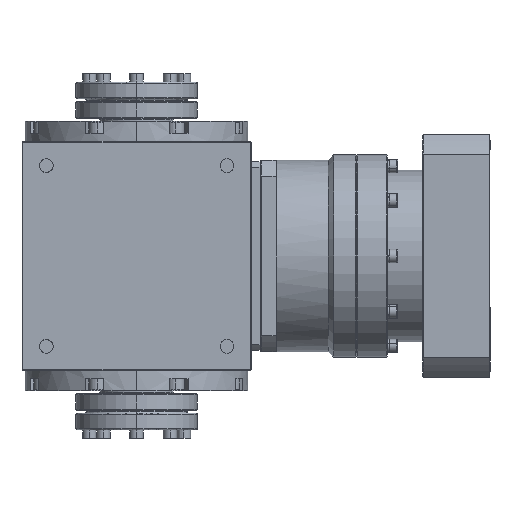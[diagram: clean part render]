
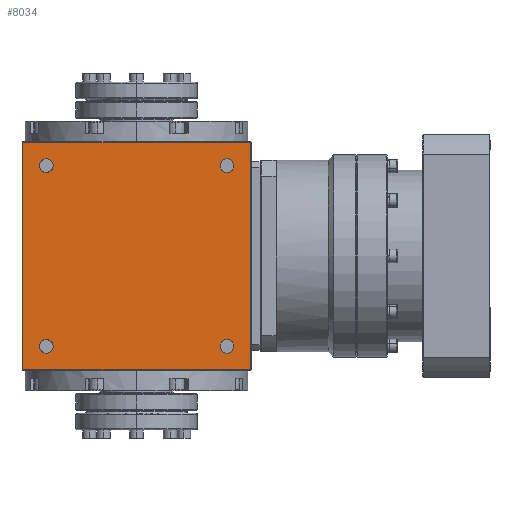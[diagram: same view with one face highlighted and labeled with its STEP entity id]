
A CAD part, left-side view. The second image highlights one B-rep face of the part: STEP entity #8034.
In plain terms, the highlighted planar face has unit normal (-1, 0, 0).
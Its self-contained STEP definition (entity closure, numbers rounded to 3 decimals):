
#691 = DIRECTION ( 'NONE',  ( 1., 0., 0. ) ) ;
#833 = EDGE_LOOP ( 'NONE', ( #30398, #29703 ) ) ;
#1443 = FACE_BOUND ( 'NONE', #29589, .T. ) ;
#1668 = CARTESIAN_POINT ( 'NONE',  ( -85., 85., -85. ) ) ;
#1982 = AXIS2_PLACEMENT_3D ( 'NONE', #19839, #36891, #41239 ) ;
#3492 = DIRECTION ( 'NONE',  ( 1., 0., 0. ) ) ;
#3973 = EDGE_CURVE ( 'NONE', #21170, #16517, #11894, .T. ) ;
#3990 = DIRECTION ( 'NONE',  ( 1., 0., 0. ) ) ;
#4277 = CARTESIAN_POINT ( 'NONE',  ( -85., 67., 72.1 ) ) ;
#4348 = CARTESIAN_POINT ( 'NONE',  ( -85., -84.5, -85. ) ) ;
#4446 = EDGE_CURVE ( 'NONE', #19906, #38791, #21796, .T. ) ;
#4673 = DIRECTION ( 'NONE',  ( -1., 0., 0. ) ) ;
#4786 = CIRCLE ( 'NONE', #11361, 5.1 ) ;
#5134 = CARTESIAN_POINT ( 'NONE',  ( -85., -84.5, -84.5 ) ) ;
#6097 = VERTEX_POINT ( 'NONE', #20550 ) ;
#6541 = LINE ( 'NONE', #13209, #40494 ) ;
#7514 = ORIENTED_EDGE ( 'NONE', *, *, #4446, .T. ) ;
#8034 = ADVANCED_FACE ( 'NONE', ( #35988, #1443, #39896, #40112, #8573 ), #28587, .T. ) ;
#8208 = CARTESIAN_POINT ( 'NONE',  ( -85., -67., -61.9 ) ) ;
#8573 = FACE_BOUND ( 'NONE', #833, .T. ) ;
#8935 = DIRECTION ( 'NONE',  ( 0., 0., 1. ) ) ;
#9701 = VERTEX_POINT ( 'NONE', #31035 ) ;
#10278 = CARTESIAN_POINT ( 'NONE',  ( -85., 84.5, 84.5 ) ) ;
#11361 = AXIS2_PLACEMENT_3D ( 'NONE', #23484, #41204, #30822 ) ;
#11548 = DIRECTION ( 'NONE',  ( 0., -1., 0. ) ) ;
#11672 = CARTESIAN_POINT ( 'NONE',  ( -85., -67., -72.1 ) ) ;
#11894 = CIRCLE ( 'NONE', #17038, 5.1 ) ;
#12094 = EDGE_CURVE ( 'NONE', #38791, #19906, #14720, .T. ) ;
#12589 = ORIENTED_EDGE ( 'NONE', *, *, #22417, .T. ) ;
#12701 = CARTESIAN_POINT ( 'NONE',  ( -85., -67., 61.9 ) ) ;
#12977 = AXIS2_PLACEMENT_3D ( 'NONE', #14285, #3492, #30873 ) ;
#13209 = CARTESIAN_POINT ( 'NONE',  ( -85., 84.5, -85. ) ) ;
#13467 = VERTEX_POINT ( 'NONE', #5134 ) ;
#13602 = ORIENTED_EDGE ( 'NONE', *, *, #3973, .T. ) ;
#13870 = DIRECTION ( 'NONE',  ( 0., 0., 1. ) ) ;
#13954 = CARTESIAN_POINT ( 'NONE',  ( -85., 67., -67. ) ) ;
#14147 = VERTEX_POINT ( 'NONE', #4277 ) ;
#14285 = CARTESIAN_POINT ( 'NONE',  ( -85., -67., -67. ) ) ;
#14307 = EDGE_CURVE ( 'NONE', #21111, #17258, #6541, .T. ) ;
#14456 = CIRCLE ( 'NONE', #1982, 5.1 ) ;
#14693 = LINE ( 'NONE', #4348, #40950 ) ;
#14720 = CIRCLE ( 'NONE', #20619, 5.1 ) ;
#15371 = CARTESIAN_POINT ( 'NONE',  ( -85., 85., -84.5 ) ) ;
#16067 = CARTESIAN_POINT ( 'NONE',  ( -85., 67., 67. ) ) ;
#16368 = VERTEX_POINT ( 'NONE', #12701 ) ;
#16517 = VERTEX_POINT ( 'NONE', #45370 ) ;
#17038 = AXIS2_PLACEMENT_3D ( 'NONE', #13954, #34016, #20650 ) ;
#17258 = VERTEX_POINT ( 'NONE', #19516 ) ;
#17656 = DIRECTION ( 'NONE',  ( 1., 0., 0. ) ) ;
#18194 = EDGE_LOOP ( 'NONE', ( #13602, #40263 ) ) ;
#18473 = EDGE_CURVE ( 'NONE', #29078, #14147, #33274, .T. ) ;
#18794 = CARTESIAN_POINT ( 'NONE',  ( -85., 67., 61.9 ) ) ;
#19085 = EDGE_LOOP ( 'NONE', ( #22613, #7514 ) ) ;
#19516 = CARTESIAN_POINT ( 'NONE',  ( -85., 84.5, -84.5 ) ) ;
#19673 = DIRECTION ( 'NONE',  ( 0., 0., -1. ) ) ;
#19839 = CARTESIAN_POINT ( 'NONE',  ( -85., 67., -67. ) ) ;
#19906 = VERTEX_POINT ( 'NONE', #11672 ) ;
#20327 = CARTESIAN_POINT ( 'NONE',  ( -85., -67., -67. ) ) ;
#20404 = CARTESIAN_POINT ( 'NONE',  ( -85., 67., -61.9 ) ) ;
#20550 = CARTESIAN_POINT ( 'NONE',  ( -85., -67., 72.1 ) ) ;
#20619 = AXIS2_PLACEMENT_3D ( 'NONE', #20327, #691, #13870 ) ;
#20650 = DIRECTION ( 'NONE',  ( 0., 0., 1. ) ) ;
#21111 = VERTEX_POINT ( 'NONE', #10278 ) ;
#21170 = VERTEX_POINT ( 'NONE', #20404 ) ;
#21796 = CIRCLE ( 'NONE', #12977, 5.1 ) ;
#21990 = ORIENTED_EDGE ( 'NONE', *, *, #14307, .T. ) ;
#22417 = EDGE_CURVE ( 'NONE', #6097, #16368, #4786, .T. ) ;
#22613 = ORIENTED_EDGE ( 'NONE', *, *, #12094, .T. ) ;
#23273 = CIRCLE ( 'NONE', #32841, 5.1 ) ;
#23484 = CARTESIAN_POINT ( 'NONE',  ( -85., -67., 67. ) ) ;
#23758 = EDGE_CURVE ( 'NONE', #14147, #29078, #32795, .T. ) ;
#24719 = EDGE_CURVE ( 'NONE', #13467, #9701, #14693, .T. ) ;
#28372 = AXIS2_PLACEMENT_3D ( 'NONE', #31832, #3990, #32058 ) ;
#28587 = PLANE ( 'NONE',  #29922 ) ;
#29078 = VERTEX_POINT ( 'NONE', #18794 ) ;
#29378 = VECTOR ( 'NONE', #37945, 1000. ) ;
#29589 = EDGE_LOOP ( 'NONE', ( #12589, #43855 ) ) ;
#29703 = ORIENTED_EDGE ( 'NONE', *, *, #18473, .T. ) ;
#29837 = LINE ( 'NONE', #15371, #44378 ) ;
#29922 = AXIS2_PLACEMENT_3D ( 'NONE', #1668, #4673, #11548 ) ;
#30254 = DIRECTION ( 'NONE',  ( 0., 0., 1. ) ) ;
#30398 = ORIENTED_EDGE ( 'NONE', *, *, #23758, .T. ) ;
#30822 = DIRECTION ( 'NONE',  ( 0., 0., 1. ) ) ;
#30873 = DIRECTION ( 'NONE',  ( 0., 0., 1. ) ) ;
#31035 = CARTESIAN_POINT ( 'NONE',  ( -85., -84.5, 84.5 ) ) ;
#31822 = ORIENTED_EDGE ( 'NONE', *, *, #44316, .T. ) ;
#31832 = CARTESIAN_POINT ( 'NONE',  ( -85., 67., 67. ) ) ;
#32058 = DIRECTION ( 'NONE',  ( 0., 0., 1. ) ) ;
#32646 = DIRECTION ( 'NONE',  ( 1., 0., 0. ) ) ;
#32793 = EDGE_CURVE ( 'NONE', #16517, #21170, #14456, .T. ) ;
#32795 = CIRCLE ( 'NONE', #28372, 5.1 ) ;
#32841 = AXIS2_PLACEMENT_3D ( 'NONE', #36571, #32646, #8935 ) ;
#33274 = CIRCLE ( 'NONE', #39155, 5.1 ) ;
#34016 = DIRECTION ( 'NONE',  ( 1., 0., 0. ) ) ;
#35454 = EDGE_LOOP ( 'NONE', ( #36963, #37765, #21990, #31822 ) ) ;
#35988 = FACE_OUTER_BOUND ( 'NONE', #35454, .T. ) ;
#36571 = CARTESIAN_POINT ( 'NONE',  ( -85., -67., 67. ) ) ;
#36834 = EDGE_CURVE ( 'NONE', #9701, #21111, #45288, .T. ) ;
#36891 = DIRECTION ( 'NONE',  ( 1., 0., 0. ) ) ;
#36963 = ORIENTED_EDGE ( 'NONE', *, *, #24719, .T. ) ;
#37765 = ORIENTED_EDGE ( 'NONE', *, *, #36834, .T. ) ;
#37945 = DIRECTION ( 'NONE',  ( 0., 1., 0. ) ) ;
#38399 = EDGE_CURVE ( 'NONE', #16368, #6097, #23273, .T. ) ;
#38791 = VERTEX_POINT ( 'NONE', #8208 ) ;
#39155 = AXIS2_PLACEMENT_3D ( 'NONE', #16067, #17656, #45514 ) ;
#39896 = FACE_BOUND ( 'NONE', #18194, .T. ) ;
#40112 = FACE_BOUND ( 'NONE', #19085, .T. ) ;
#40263 = ORIENTED_EDGE ( 'NONE', *, *, #32793, .T. ) ;
#40494 = VECTOR ( 'NONE', #19673, 1000. ) ;
#40950 = VECTOR ( 'NONE', #30254, 1000. ) ;
#41204 = DIRECTION ( 'NONE',  ( 1., 0., 0. ) ) ;
#41239 = DIRECTION ( 'NONE',  ( 0., 0., 1. ) ) ;
#42288 = CARTESIAN_POINT ( 'NONE',  ( -85., 85., 84.5 ) ) ;
#43219 = DIRECTION ( 'NONE',  ( 0., -1., 0. ) ) ;
#43855 = ORIENTED_EDGE ( 'NONE', *, *, #38399, .T. ) ;
#44316 = EDGE_CURVE ( 'NONE', #17258, #13467, #29837, .T. ) ;
#44378 = VECTOR ( 'NONE', #43219, 1000. ) ;
#45288 = LINE ( 'NONE', #42288, #29378 ) ;
#45370 = CARTESIAN_POINT ( 'NONE',  ( -85., 67., -72.1 ) ) ;
#45514 = DIRECTION ( 'NONE',  ( 0., 0., 1. ) ) ;
